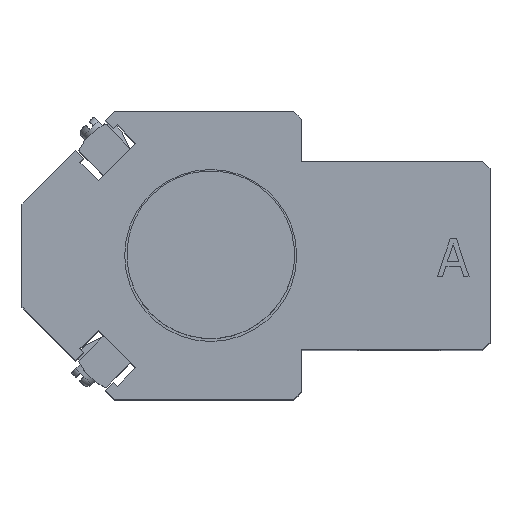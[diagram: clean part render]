
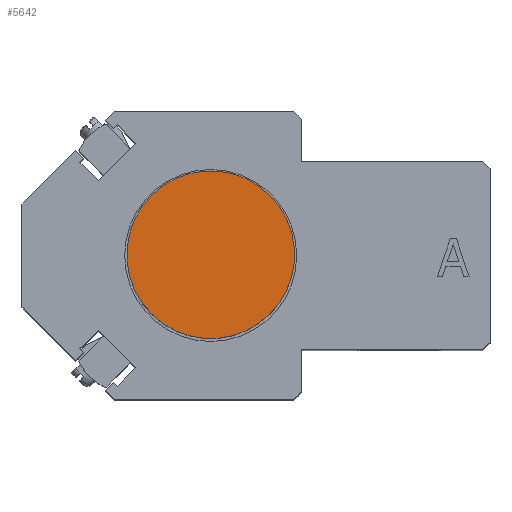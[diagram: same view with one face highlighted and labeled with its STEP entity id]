
A CAD part, top view. The second image highlights one B-rep face of the part: STEP entity #5642.
In plain terms, the highlighted planar face has unit normal (0, 0, 1) as drawn and (1, 0, 0) by its records, which use the part's own axes.
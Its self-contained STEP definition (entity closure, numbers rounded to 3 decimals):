
#480=PLANE('',#6457);
#764=FACE_OUTER_BOUND('',#1101,.T.);
#1101=EDGE_LOOP('',(#5230,#5231));
#2367=CIRCLE('',#6458,11.113);
#2368=CIRCLE('',#6459,11.113);
#2906=VERTEX_POINT('',#9825);
#2907=VERTEX_POINT('',#9826);
#3688=EDGE_CURVE('',#2906,#2907,#2367,.T.);
#3689=EDGE_CURVE('',#2907,#2906,#2368,.T.);
#5230=ORIENTED_EDGE('',*,*,#3688,.F.);
#5231=ORIENTED_EDGE('',*,*,#3689,.F.);
#5642=ADVANCED_FACE('',(#764),#480,.T.);
#6457=AXIS2_PLACEMENT_3D('',#9824,#8059,#8060);
#6458=AXIS2_PLACEMENT_3D('',#9827,#8061,#8062);
#6459=AXIS2_PLACEMENT_3D('',#9828,#8063,#8064);
#8059=DIRECTION('center_axis',(1.,0.,0.));
#8060=DIRECTION('ref_axis',(0.,0.,-1.));
#8061=DIRECTION('center_axis',(-1.,0.,0.));
#8062=DIRECTION('ref_axis',(0.,-1.,0.));
#8063=DIRECTION('center_axis',(-1.,0.,0.));
#8064=DIRECTION('ref_axis',(0.,-1.,0.));
#9824=CARTESIAN_POINT('Origin',(13.,-5.556,0.));
#9825=CARTESIAN_POINT('',(13.,-11.113,0.));
#9826=CARTESIAN_POINT('',(13.,11.113,0.));
#9827=CARTESIAN_POINT('Origin',(13.,0.,0.));
#9828=CARTESIAN_POINT('Origin',(13.,0.,0.));
